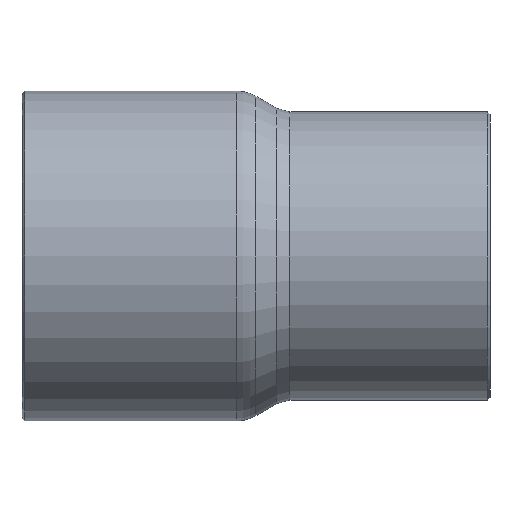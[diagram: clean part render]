
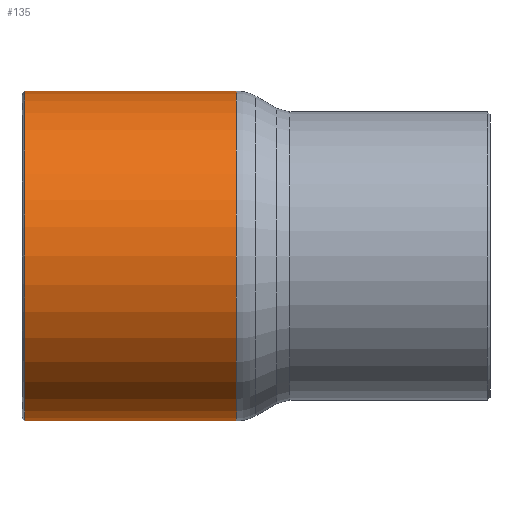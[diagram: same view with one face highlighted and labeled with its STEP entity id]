
A CAD part, front view. The second image highlights one B-rep face of the part: STEP entity #135.
In plain terms, the highlighted cylindrical face has radius 12.688 mm (diameter 25.375 mm), a full revolution.
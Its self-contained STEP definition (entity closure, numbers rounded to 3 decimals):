
#84=CARTESIAN_POINT('',(-22.5,12.687,0.));
#85=VERTEX_POINT('',#84);
#86=CARTESIAN_POINT('',(-22.5,0.0,0.0));
#87=DIRECTION('',(-1.0,0.0,0.0));
#88=DIRECTION('',(0.0,-1.0,0.0));
#89=AXIS2_PLACEMENT_3D('',#86,#87,#88);
#90=CIRCLE('',#89,12.687);
#91=EDGE_CURVE('',#85,#85,#90,.T.);
#116=CARTESIAN_POINT('',(-14.45,0.0,0.0));
#117=DIRECTION('',(1.0,0.0,0.0));
#118=DIRECTION('',(0.0,1.0,0.0));
#119=AXIS2_PLACEMENT_3D('',#116,#117,#118);
#120=CYLINDRICAL_SURFACE('',#119,12.687);
#121=CARTESIAN_POINT('',(-6.2,12.688,0.0));
#122=VERTEX_POINT('',#121);
#123=CARTESIAN_POINT('',(-6.2,0.0,0.0));
#124=DIRECTION('',(1.0,0.0,0.0));
#125=DIRECTION('',(0.0,1.0,0.0));
#126=AXIS2_PLACEMENT_3D('',#123,#124,#125);
#127=CIRCLE('',#126,12.688);
#128=EDGE_CURVE('',#122,#122,#127,.T.);
#129=ORIENTED_EDGE('',*,*,#128,.F.);
#130=EDGE_LOOP('',(#129));
#131=FACE_OUTER_BOUND('',#130,.T.);
#132=ORIENTED_EDGE('',*,*,#91,.F.);
#133=EDGE_LOOP('',(#132));
#134=FACE_BOUND('',#133,.T.);
#135=ADVANCED_FACE('',(#131,#134),#120,.T.);
